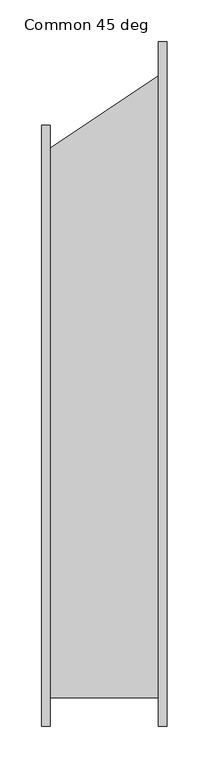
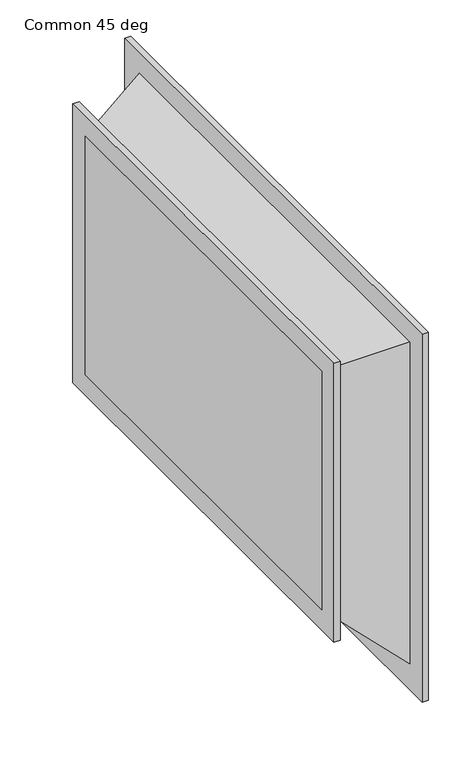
"""IFC4 building model written with IfcOpenShell, lengths in millimetres: duct fitting geometry, 041_角型置換 - フランジ - 角度 : Common 45 deg."""

from ifc_helpers import new_model, si_unit, frame, origin, place, context, project, spatial, polyline, outline, extrude, faceted_brep, source, transform, mapped, element, save


def common_45_deg_ac8d2ae8(model_context):
    return source(origin(), model_context, "Body", "SolidModel", [
        faceted_brep([(150.0, -325.0, 200.0), (150.0, -325.0, -350.0), (150.0, 425.0, -350.0), (150.0, 425.0, 200.0), (0.0, -325.0, 200.0), (0.0, 325.0, 200.0), (0.0, 325.0, -200.0), (0.0, -325.0, -200.0)], [[[0, 1, 2, 3]], [[4, 5, 6, 7]], [[4, 7, 1, 0]], [[7, 6, 2, 1]], [[6, 5, 3, 2]], [[5, 4, 0, 3]]]),
        extrude(outline(polyline([(150.0, 459.0), (150.0, -359.0), (140.0, -359.0), (140.0, 459.0), (150.0, 459.0)])), frame((0.0, 0.0, -384.0), z_axis=(0.0, 0.0, 1.0), x_axis=(1.0, 0.0, 0.0)), (0.0, 0.0, 1.0), 618.0),
        extrude(outline(polyline([(10.0, 359.0), (10.0, -359.0), (0.0, -359.0), (0.0, 359.0), (10.0, 359.0)])), frame((0.0, 0.0, -234.0), z_axis=(0.0, 0.0, 1.0), x_axis=(1.0, 0.0, 0.0)), (0.0, 0.0, 1.0), 468.0),
    ])


if __name__ == "__main__":
    model = new_model("IFC4")
    model_context = context("Model", 3, world=origin())
    ifc_project = project(units=[si_unit("LENGTHUNIT", "METRE", prefix="MILLI")], contexts=[model_context])
    site = spatial("IfcSite", under=ifc_project)
    building = spatial("IfcBuilding", under=site)
    placement = place(None, origin())
    common_45_deg_shape = common_45_deg_ac8d2ae8(model_context)
    element("IfcDuctFitting", 1, ObjectType="041_角型置換 - フランジ - 角度 : Common 45 deg", at=placement, inside=building, context=model_context, shape_type="MappedRepresentation", body=[
        mapped(common_45_deg_shape, transform((0.0, 0.0, 0.0), x_axis=(1.0, 0.0, 0.0), y_axis=(0.0, 1.0, 0.0), z_axis=(0.0, 0.0, 1.0))),
    ])
    save(model, "model.ifc")
